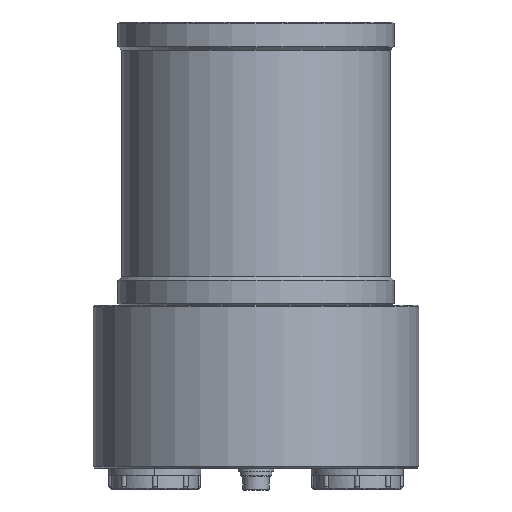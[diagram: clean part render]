
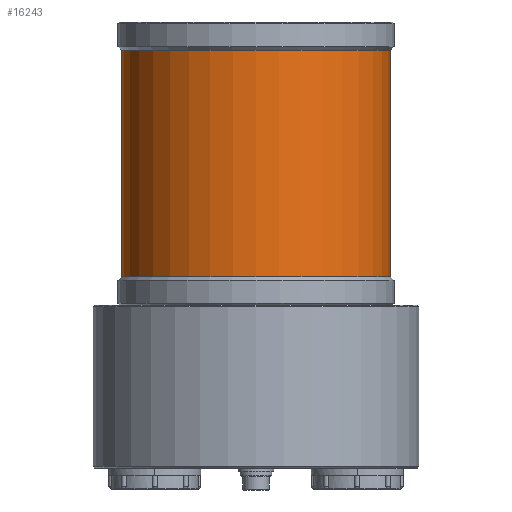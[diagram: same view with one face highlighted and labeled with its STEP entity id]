
A CAD part, front view. The second image highlights one B-rep face of the part: STEP entity #16243.
In plain terms, the highlighted cylindrical face has radius 38 mm (diameter 76 mm), a partial arc.
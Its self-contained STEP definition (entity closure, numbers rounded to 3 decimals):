
#63 = DIRECTION ( 'NONE',  ( 0., 0., 1. ) ) ;
#1955 = VECTOR ( 'NONE', #13127, 1000. ) ;
#2782 = EDGE_LOOP ( 'NONE', ( #17344, #3822, #4498, #16673 ) ) ;
#3343 = CARTESIAN_POINT ( 'NONE',  ( -38., 0., 126. ) ) ;
#3413 = DIRECTION ( 'NONE',  ( 0., 0., -1. ) ) ;
#3457 = CARTESIAN_POINT ( 'NONE',  ( 0., 0., 126. ) ) ;
#3822 = ORIENTED_EDGE ( 'NONE', *, *, #23215, .T. ) ;
#3973 = VERTEX_POINT ( 'NONE', #17206 ) ;
#4498 = ORIENTED_EDGE ( 'NONE', *, *, #10432, .T. ) ;
#4939 = CARTESIAN_POINT ( 'NONE',  ( 38., 0., 54. ) ) ;
#5401 = DIRECTION ( 'NONE',  ( 0., 0., 1. ) ) ;
#5931 = VERTEX_POINT ( 'NONE', #4939 ) ;
#6469 = DIRECTION ( 'NONE',  ( -1., 0., 0. ) ) ;
#7921 = EDGE_CURVE ( 'NONE', #20355, #13709, #20356, .T. ) ;
#8024 = CARTESIAN_POINT ( 'NONE',  ( -38., 0., 54. ) ) ;
#9476 = CIRCLE ( 'NONE', #11818, 38. ) ;
#10432 = EDGE_CURVE ( 'NONE', #5931, #3973, #16534, .T. ) ;
#10603 = FACE_OUTER_BOUND ( 'NONE', #2782, .T. ) ;
#11818 = AXIS2_PLACEMENT_3D ( 'NONE', #19950, #3413, #18170 ) ;
#12120 = AXIS2_PLACEMENT_3D ( 'NONE', #19138, #21249, #6469 ) ;
#13127 = DIRECTION ( 'NONE',  ( 0., 0., 1. ) ) ;
#13709 = VERTEX_POINT ( 'NONE', #23724 ) ;
#14984 = VECTOR ( 'NONE', #5401, 1000. ) ;
#16243 = ADVANCED_FACE ( 'NONE', ( #10603 ), #18102, .T. ) ;
#16534 = LINE ( 'NONE', #16646, #1955 ) ;
#16646 = CARTESIAN_POINT ( 'NONE',  ( 38., 0., 126. ) ) ;
#16673 = ORIENTED_EDGE ( 'NONE', *, *, #21011, .T. ) ;
#17206 = CARTESIAN_POINT ( 'NONE',  ( 38., 0., 118. ) ) ;
#17344 = ORIENTED_EDGE ( 'NONE', *, *, #7921, .F. ) ;
#18102 = CYLINDRICAL_SURFACE ( 'NONE', #23574, 38. ) ;
#18170 = DIRECTION ( 'NONE',  ( 1., 0., 0. ) ) ;
#18351 = DIRECTION ( 'NONE',  ( 1., 0., 0. ) ) ;
#19138 = CARTESIAN_POINT ( 'NONE',  ( 0., 0., 54. ) ) ;
#19843 = CIRCLE ( 'NONE', #12120, 38. ) ;
#19950 = CARTESIAN_POINT ( 'NONE',  ( 0., 0., 118. ) ) ;
#20355 = VERTEX_POINT ( 'NONE', #8024 ) ;
#20356 = LINE ( 'NONE', #3343, #14984 ) ;
#21011 = EDGE_CURVE ( 'NONE', #3973, #13709, #9476, .T. ) ;
#21249 = DIRECTION ( 'NONE',  ( 0., 0., 1. ) ) ;
#23215 = EDGE_CURVE ( 'NONE', #20355, #5931, #19843, .T. ) ;
#23574 = AXIS2_PLACEMENT_3D ( 'NONE', #3457, #63, #18351 ) ;
#23724 = CARTESIAN_POINT ( 'NONE',  ( -38., 0., 118. ) ) ;
